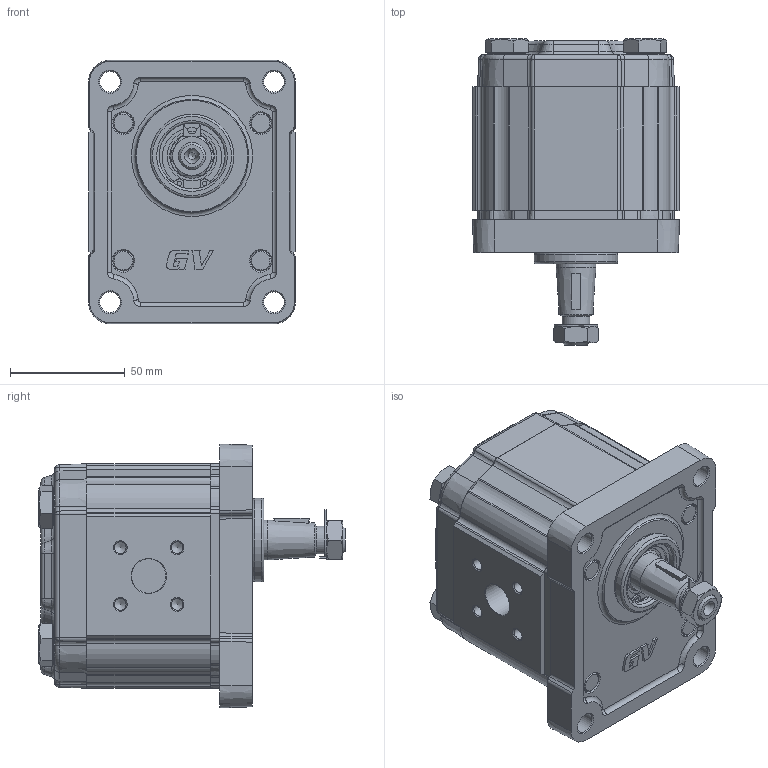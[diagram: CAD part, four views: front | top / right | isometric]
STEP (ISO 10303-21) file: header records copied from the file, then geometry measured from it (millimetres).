
FILE_DESCRIPTION(/* description */ ('Unknown'),/* implementation_level */ '2;1');
FILE_NAME(/* name */ 'G2P4501ESRA',/* time_stamp */ '2026-06-03T17:52:43+02:00',/* author */ ('Unknown'),/* organization */ ('Unknown'),/* preprocessor_version */ 'ST-DEVELOPER v16.7',/* originating_system */ 'Solid Edge',/* authorisation */ 'Unknown');
FILE_SCHEMA (('AUTOMOTIVE_DESIGN {1 0 10303 214 3 1 1}'));
Length unit declared in the file: millimetre
Products named in the file (5): G2P4501ESRA; G2P01; 2E; G2SRH54; GP201-A
Assembly tree (4 placements, depth 2):
  G2P4501ESRA
    G2P01
    2E
    G2SRH54
    GP201-A
Bounding box: 90.29 x 133.55 x 115.1 mm (x, y, z)
Volume: 697085.5 mm3; surface area: 106841.3 mm2
Topology: 4 solids, 5 shells, 976 faces, 3315 edges, 2089 vertices
Faces by surface type: cylinder 387, plane 342, cone 134, torus 57, bspline 56
Full cylindrical faces by diameter (mm): 2 x2, 4 x2, 5 x8, 9 x4, 9.9 x4, 10 x4, 10.5 x8, 12 x2, 12.5 x1, 15 x5, 15.8 x4, 16 x4, 17.42 x1, 17.48 x2, 18 x4, 18.724 x1, 19 x1, 20 x1, 20.595 x1, 21.741 x1, 25 x1, 25.834 x1, 28.56 x1, 28.57 x1, 28.8 x1, 30.5 x1, 36.5 x1
Entity records: 48216 total; most frequent: CARTESIAN_POINT 13156, ORIENTED_EDGE 6238, DIRECTION 5607, EDGE_CURVE 3119, AXIS2_PLACEMENT_3D 2149, VERTEX_POINT 2042, LINE 1309, VECTOR 1309
